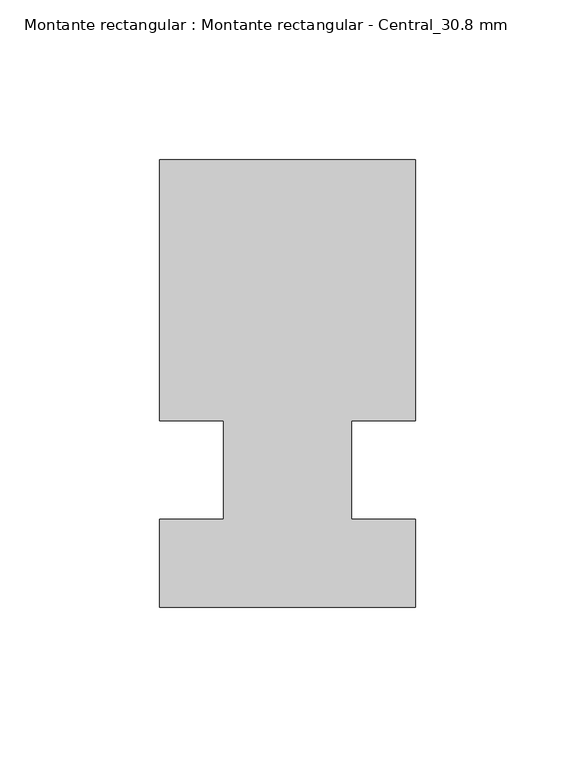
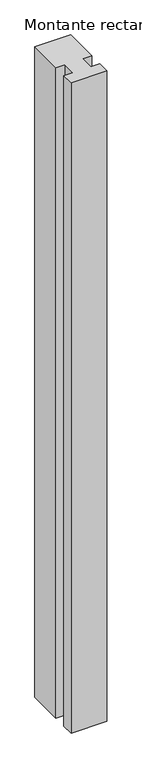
"""IFC4 building model written with IfcOpenShell, lengths in millimetres: member geometry, Montante rectangular : Montante rectangular - Central_30.8 mm."""

from ifc_helpers import new_model, si_unit, frame, origin, place, context, project, spatial, polyline, outline, extrude, source, transform, mapped, element, save


def montante_rectangular_montante_rectangular_central_30_8_mm_53c3e57f(model_context):
    return source(origin(), model_context, "Body", "SweptSolid", [
        extrude(outline(polyline([(-40.0, 80.0), (40.0, 80.0), (40.0, -1.6), (20.0, -1.6), (20.0, -32.4), (40.0, -32.4), (40.0, -60.0), (-40.0, -60.0), (-40.0, -32.4), (-20.0, -32.4), (-20.0, -1.6), (-40.0, -1.6), (-40.0, 80.0)])), frame((0.0, 0.0, -1540.0), z_axis=(0.0, 0.0, 1.0), x_axis=(1.0, 0.0, 0.0)), (0.0, 0.0, 1.0), 1540.0),
    ])


if __name__ == "__main__":
    model = new_model("IFC4")
    model_context = context("Model", 3, world=origin())
    ifc_project = project(units=[si_unit("LENGTHUNIT", "METRE", prefix="MILLI")], contexts=[model_context])
    site = spatial("IfcSite", under=ifc_project)
    building = spatial("IfcBuilding", under=site)
    placement = place(None, origin())
    montante_rectangular_montante_rectangular_central_30_8_mm_shape = montante_rectangular_montante_rectangular_central_30_8_mm_53c3e57f(model_context)
    element("IfcMember", 1, ObjectType="Montante rectangular : Montante rectangular - Central_30.8 mm", at=placement, inside=building, context=model_context, shape_type="MappedRepresentation", body=[
        mapped(montante_rectangular_montante_rectangular_central_30_8_mm_shape, transform((0.0, 0.0, 0.0), x_axis=(1.0, 0.0, 0.0), y_axis=(0.0, 1.0, 0.0), z_axis=(0.0, 0.0, 1.0))),
    ])
    save(model, "model.ifc")
